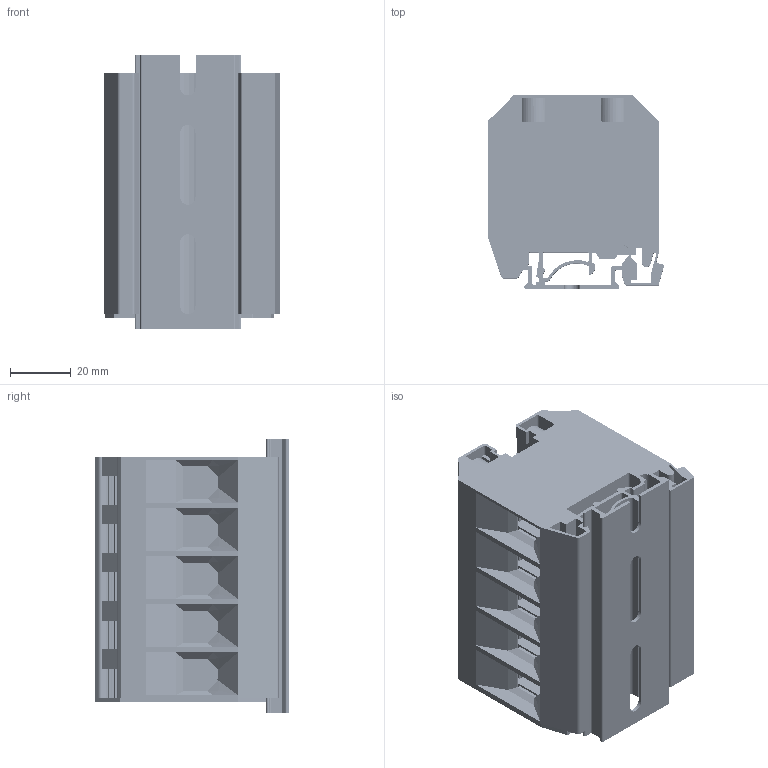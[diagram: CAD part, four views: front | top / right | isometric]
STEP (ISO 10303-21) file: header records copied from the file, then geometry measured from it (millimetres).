
FILE_DESCRIPTION((''),'2;1');
FILE_NAME('PRT0001','2016-06-13T',('Administrator'),(''),'PRO/ENGINEER BY PARAMETRIC TECHNOLOGY CORPORATION, 2012360','PRO/ENGINEER BY PARAMETRIC TECHNOLOGY CORPORATION, 2012360','');
FILE_SCHEMA(('CONFIG_CONTROL_DESIGN'));
Products named in the file (1): PRT0001
Bounding box: 57.8 x 63.7 x 90 mm (x, y, z)
Volume: 106947.7 mm3; surface area: 127654.8 mm2
Topology: 1 solids, 68 shells, 4755 faces, 13744 edges, 9063 vertices
Faces by surface type: plane 3260, cylinder 1077, bspline 360, cone 53, extrusion 5
Entity records: 206153 total; most frequent: CARTESIAN_POINT 83939, ORIENTED_EDGE 27488, DIRECTION 22310, EDGE_CURVE 13744, VECTOR 10134, LINE 10129, VERTEX_POINT 9063, AXIS2_PLACEMENT_3D 6088
